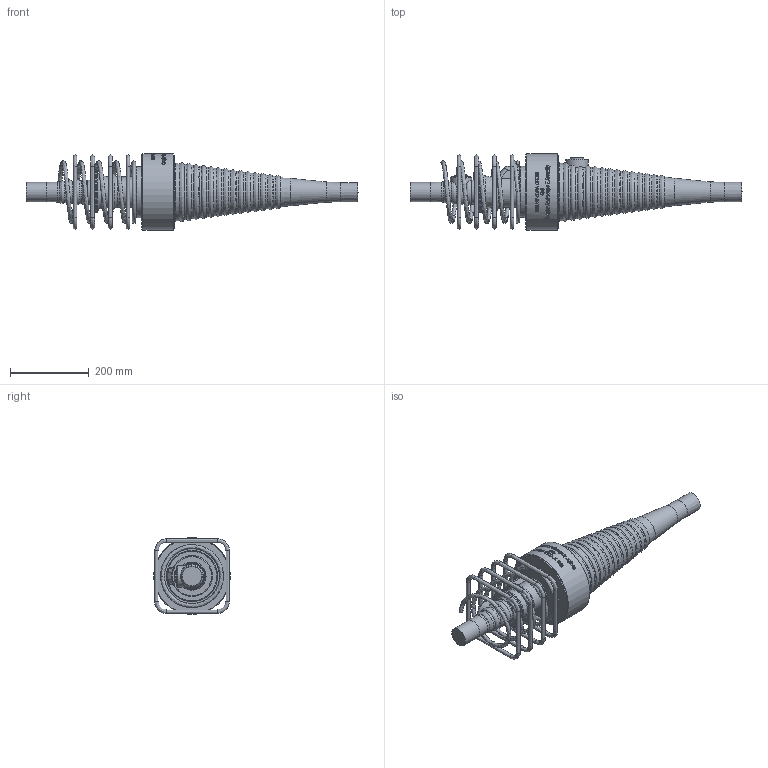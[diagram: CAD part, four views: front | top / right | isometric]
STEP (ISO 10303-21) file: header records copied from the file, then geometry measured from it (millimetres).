
FILE_DESCRIPTION(/* description */ (''),/* implementation_level */ '2;1');
FILE_NAME(/* name */ 'Z:\04 Publications\05 Give-out\BBR\6_3D_Models\BBR VT CONA CMI\BBR VT CONA CMI BT\00406\BBR VT CONA CMI BT 406_Couler K Assembly_CS-34,28.stp',/* time_stamp */ '2017-05-04T16:19:37+02:00',/* author */ ('IP'),/* organization */ (''),/* preprocessor_version */ 'ST-DEVELOPER v16.1',/* originating_system */ 'Autodesk Inventor 2016',/* authorisation */ '');
FILE_SCHEMA (('AUTOMOTIVE_DESIGN { 1 0 10303 214 3 1 1 }'));
Length unit declared in the file: millimetre
Products named in the file (1): BBR VT CONA CMI BT 406_Couler K Assembly_CS-34,28
Bounding box: 845.07 x 194.26 x 194.73 mm (x, y, z)
Volume: 7640655.1 mm3; surface area: 533874.6 mm2
Topology: 7 solids, 7 shells, 919 faces, 2349 edges, 1500 vertices
Faces by surface type: bspline 421, plane 261, cylinder 99, torus 96, cone 30, sphere 12
Full cylindrical faces by diameter (mm): 10 x16, 32 x1, 34.158 x1, 49 x1, 55 x1, 57 x1, 104 x2, 130 x1, 192 x1, 195 x1
Entity records: 39824 total; most frequent: CARTESIAN_POINT 20322, ORIENTED_EDGE 4422, DIRECTION 2880, EDGE_CURVE 2211, VERTEX_POINT 1489, EDGE_LOOP 1110, AXIS2_PLACEMENT_3D 1010, FACE_OUTER_BOUND 919
